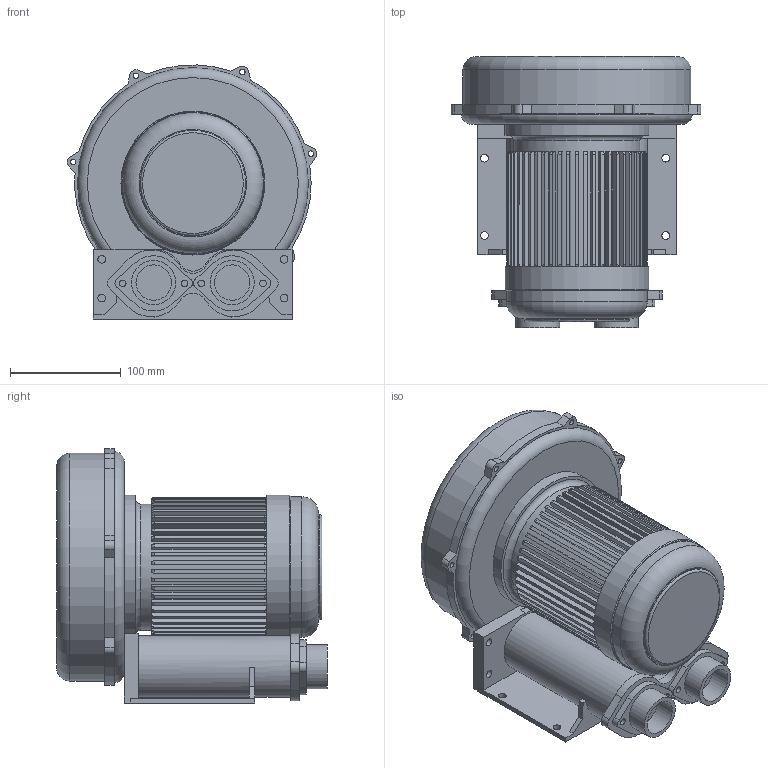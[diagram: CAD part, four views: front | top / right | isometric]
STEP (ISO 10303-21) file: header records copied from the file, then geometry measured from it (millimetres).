
FILE_DESCRIPTION(/* description */ ('Unknown'),/* implementation_level */ '2;1');
FILE_NAME(/* name */ '20201125 RB-0.25',/* time_stamp */ '2020-11-26T01:34:14+08:00',/* author */ ('å¤§èºè¨­è¨æéå¬å¸'),/* organization */ ('Unknown'),/* preprocessor_version */ 'ST-DEVELOPER v16.7',/* originating_system */ 'DEX',/* authorisation */ $);
FILE_SCHEMA (('AUTOMOTIVE_DESIGN {1 0 10303 214 3 1 1}'));
Length unit declared in the file: millimetre
Products named in the file (1): 20201125 RB-0.25
Bounding box: 225.9 x 245 x 229.94 mm (x, y, z)
Volume: 5087375.7 mm3; surface area: 357396.4 mm2
Topology: 1 solids, 1 shells, 484 faces, 1373 edges, 914 vertices
Faces by surface type: plane 291, cylinder 180, cone 8, torus 5
Full cylindrical faces by diameter (mm): 5 x6, 6 x4, 7 x8, 32 x2, 40 x2, 130 x1, 206.173 x1
Entity records: 15774 total; most frequent: CARTESIAN_POINT 3033, DIRECTION 2678, ORIENTED_EDGE 2658, EDGE_CURVE 1329, AXIS2_PLACEMENT_3D 968, VERTEX_POINT 907, LINE 742, VECTOR 742
